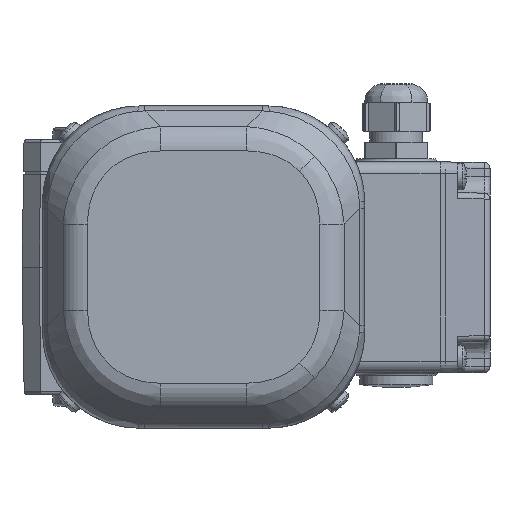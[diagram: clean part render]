
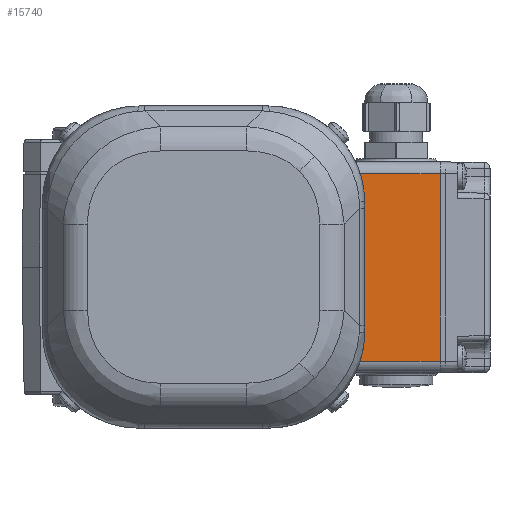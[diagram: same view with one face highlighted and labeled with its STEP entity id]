
A CAD part, left-side view. The second image highlights one B-rep face of the part: STEP entity #15740.
In plain terms, the highlighted planar face has unit normal (-1, 0, 0).
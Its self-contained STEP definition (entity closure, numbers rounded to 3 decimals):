
#33 = LINE ( 'NONE', #40408, #51536 ) ;
#2505 = VECTOR ( 'NONE', #9898, 1000. ) ;
#2692 = CARTESIAN_POINT ( 'NONE',  ( -34., 32., -30. ) ) ;
#3012 = LINE ( 'NONE', #51942, #40329 ) ;
#4825 = CARTESIAN_POINT ( 'NONE',  ( -34., -32., 0. ) ) ;
#5552 = VERTEX_POINT ( 'NONE', #6522 ) ;
#6165 = CARTESIAN_POINT ( 'NONE',  ( -34., -32., -15. ) ) ;
#6522 = CARTESIAN_POINT ( 'NONE',  ( -34., 32., 0. ) ) ;
#8565 = ORIENTED_EDGE ( 'NONE', *, *, #15567, .F. ) ;
#9898 = DIRECTION ( 'NONE',  ( 0., 0., 1. ) ) ;
#10157 = LINE ( 'NONE', #6165, #2505 ) ;
#13322 = DIRECTION ( 'NONE',  ( 0., 0., -1. ) ) ;
#14084 = ORIENTED_EDGE ( 'NONE', *, *, #18315, .T. ) ;
#14164 = DIRECTION ( 'NONE',  ( 0., 1., 0. ) ) ;
#15567 = EDGE_CURVE ( 'NONE', #42267, #18399, #33, .T. ) ;
#15740 = ADVANCED_FACE ( 'NONE', ( #37701 ), #20850, .F. ) ;
#17904 = LINE ( 'NONE', #46590, #46260 ) ;
#18315 = EDGE_CURVE ( 'NONE', #29651, #5552, #17904, .T. ) ;
#18399 = VERTEX_POINT ( 'NONE', #2692 ) ;
#20850 = PLANE ( 'NONE',  #48172 ) ;
#21109 = DIRECTION ( 'NONE',  ( 1., 0., 0. ) ) ;
#25588 = EDGE_LOOP ( 'NONE', ( #8565, #35184, #14084, #51509 ) ) ;
#26159 = CARTESIAN_POINT ( 'NONE',  ( -34., -32., -30. ) ) ;
#29651 = VERTEX_POINT ( 'NONE', #37428 ) ;
#35184 = ORIENTED_EDGE ( 'NONE', *, *, #37785, .T. ) ;
#37428 = CARTESIAN_POINT ( 'NONE',  ( -34., -32., 0. ) ) ;
#37701 = FACE_OUTER_BOUND ( 'NONE', #25588, .T. ) ;
#37785 = EDGE_CURVE ( 'NONE', #42267, #29651, #10157, .T. ) ;
#38852 = DIRECTION ( 'NONE',  ( 0., 0., 1. ) ) ;
#40329 = VECTOR ( 'NONE', #38852, 1000. ) ;
#40408 = CARTESIAN_POINT ( 'NONE',  ( -34., 0., -30. ) ) ;
#42267 = VERTEX_POINT ( 'NONE', #26159 ) ;
#43565 = EDGE_CURVE ( 'NONE', #18399, #5552, #3012, .T. ) ;
#46260 = VECTOR ( 'NONE', #14164, 1000. ) ;
#46590 = CARTESIAN_POINT ( 'NONE',  ( -34., 0., 0. ) ) ;
#48172 = AXIS2_PLACEMENT_3D ( 'NONE', #4825, #21109, #13322 ) ;
#49231 = DIRECTION ( 'NONE',  ( 0., 1., 0. ) ) ;
#51509 = ORIENTED_EDGE ( 'NONE', *, *, #43565, .F. ) ;
#51536 = VECTOR ( 'NONE', #49231, 1000. ) ;
#51942 = CARTESIAN_POINT ( 'NONE',  ( -34., 32., -15. ) ) ;
